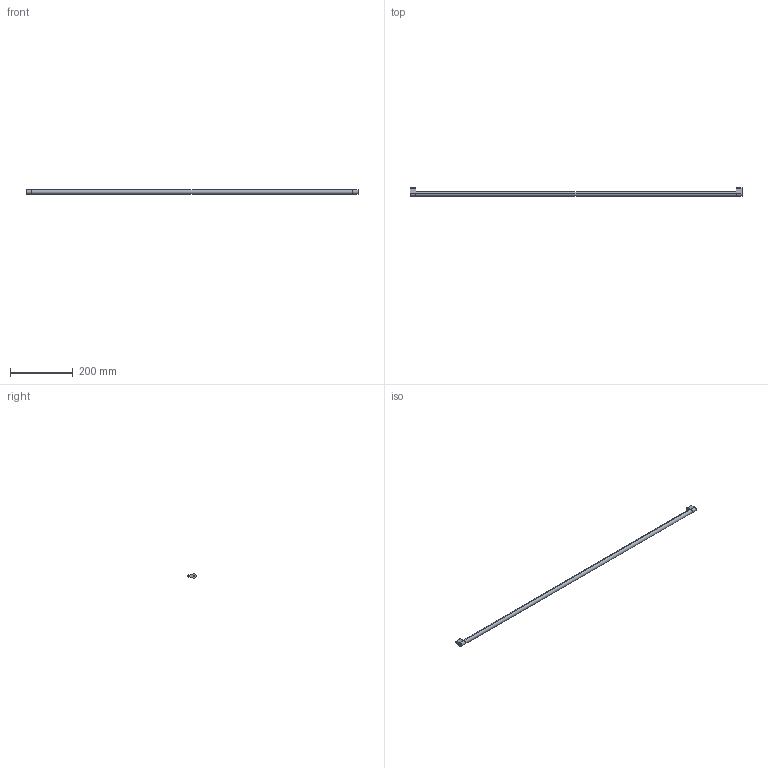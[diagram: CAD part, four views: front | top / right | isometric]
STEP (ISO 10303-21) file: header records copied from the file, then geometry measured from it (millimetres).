
FILE_DESCRIPTION (( 'STEP AP214' ), '1' );
FILE_NAME ('_Synchronisationseinheit Nova Pro KAB1150_S19.step', '2010-07-08T13:58:51', ( 'grass' ), ( '' ), 'SwSTEP 2.0', 'SolidWorks 2010', '' );
FILE_SCHEMA (( 'AUTOMOTIVE_DESIGN' ));
Length unit declared in the file: millimetre
Products named in the file (1): _Synchronisationseinheit Nova Pro KAB1150_S19
Bounding box: 1059 x 26.5 x 14 mm (x, y, z)
Volume: 166707.2 mm3; surface area: 49424.2 mm2
Topology: 3 solids, 3 shells, 36 faces, 78 edges, 52 vertices
Faces by surface type: cylinder 18, plane 18
Entity records: 1050 total; most frequent: DIRECTION 188, CARTESIAN_POINT 167, ORIENTED_EDGE 156, EDGE_CURVE 78, AXIS2_PLACEMENT_3D 73, VERTEX_POINT 52, VECTOR 42, LINE 42
